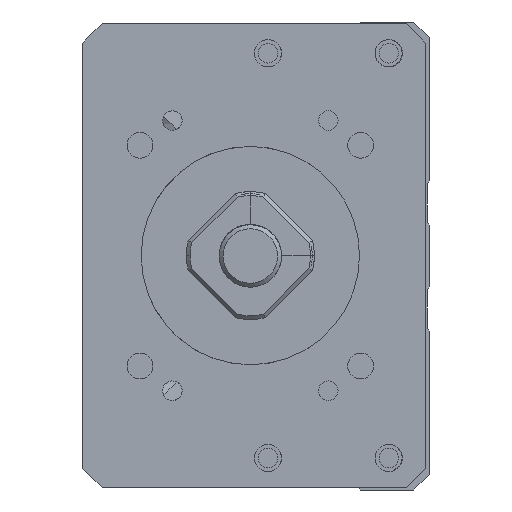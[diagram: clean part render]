
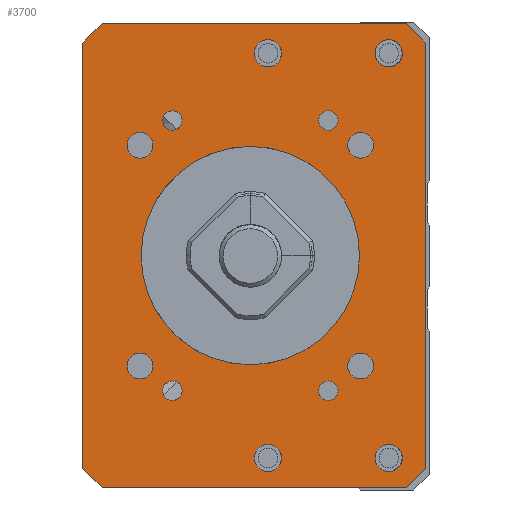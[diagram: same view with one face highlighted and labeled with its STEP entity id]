
A CAD part, left-side view. The second image highlights one B-rep face of the part: STEP entity #3700.
In plain terms, the highlighted planar face has unit normal (-1, 0, 0).
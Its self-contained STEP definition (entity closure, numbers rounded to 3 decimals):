
#461=CIRCLE('',#11580,14.);
#470=CIRCLE('',#11591,1.65);
#471=CIRCLE('',#11592,1.65);
#472=CIRCLE('',#11593,1.65);
#473=CIRCLE('',#11594,1.65);
#474=CIRCLE('',#11595,1.25);
#475=CIRCLE('',#11596,1.75);
#476=CIRCLE('',#11597,1.25);
#477=CIRCLE('',#11598,1.75);
#478=CIRCLE('',#11599,1.25);
#479=CIRCLE('',#11600,1.75);
#480=CIRCLE('',#11601,1.75);
#481=CIRCLE('',#11602,1.25);
#1025=PLANE('',#11603);
#2241=LINE('',#17450,#3095);
#2243=LINE('',#17474,#3097);
#2244=LINE('',#17476,#3098);
#2245=LINE('',#17478,#3099);
#2246=LINE('',#17480,#3100);
#2247=LINE('',#17482,#3101);
#2248=LINE('',#17484,#3102);
#2249=LINE('',#17486,#3103);
#3095=VECTOR('',#14167,1.);
#3097=VECTOR('',#14191,1.);
#3098=VECTOR('',#14192,1.);
#3099=VECTOR('',#14193,1.);
#3100=VECTOR('',#14194,1.);
#3101=VECTOR('',#14195,1.);
#3102=VECTOR('',#14196,1.);
#3103=VECTOR('',#14197,1.);
#3700=ADVANCED_FACE('',(#4372,#4373,#4374,#4375,#4376,#4377,#4378,#4379,
#4380,#4381,#4382,#4383,#4384,#4385),#1025,.F.);
#4372=FACE_BOUND('',#5173,.T.);
#4373=FACE_BOUND('',#5174,.T.);
#4374=FACE_BOUND('',#5175,.T.);
#4375=FACE_BOUND('',#5176,.T.);
#4376=FACE_BOUND('',#5177,.T.);
#4377=FACE_BOUND('',#5178,.T.);
#4378=FACE_BOUND('',#5179,.T.);
#4379=FACE_BOUND('',#5180,.T.);
#4380=FACE_BOUND('',#5181,.T.);
#4381=FACE_BOUND('',#5182,.T.);
#4382=FACE_BOUND('',#5183,.T.);
#4383=FACE_BOUND('',#5184,.T.);
#4384=FACE_BOUND('',#5185,.T.);
#4385=FACE_BOUND('',#5186,.T.);
#5173=EDGE_LOOP('',(#7548));
#5174=EDGE_LOOP('',(#7549));
#5175=EDGE_LOOP('',(#7550));
#5176=EDGE_LOOP('',(#7551));
#5177=EDGE_LOOP('',(#7552));
#5178=EDGE_LOOP('',(#7553));
#5179=EDGE_LOOP('',(#7554));
#5180=EDGE_LOOP('',(#7555));
#5181=EDGE_LOOP('',(#7556));
#5182=EDGE_LOOP('',(#7557,#7558,#7559,#7560,#7561,#7562,#7563,#7564));
#5183=EDGE_LOOP('',(#7565));
#5184=EDGE_LOOP('',(#7566));
#5185=EDGE_LOOP('',(#7567));
#5186=EDGE_LOOP('',(#7568));
#7548=ORIENTED_EDGE('',*,*,#10361,.F.);
#7549=ORIENTED_EDGE('',*,*,#10362,.F.);
#7550=ORIENTED_EDGE('',*,*,#10363,.F.);
#7551=ORIENTED_EDGE('',*,*,#10364,.F.);
#7552=ORIENTED_EDGE('',*,*,#10365,.F.);
#7553=ORIENTED_EDGE('',*,*,#10366,.T.);
#7554=ORIENTED_EDGE('',*,*,#10367,.F.);
#7555=ORIENTED_EDGE('',*,*,#10368,.F.);
#7556=ORIENTED_EDGE('',*,*,#10369,.F.);
#7557=ORIENTED_EDGE('',*,*,#10358,.T.);
#7558=ORIENTED_EDGE('',*,*,#10370,.T.);
#7559=ORIENTED_EDGE('',*,*,#10371,.F.);
#7560=ORIENTED_EDGE('',*,*,#10372,.T.);
#7561=ORIENTED_EDGE('',*,*,#10373,.F.);
#7562=ORIENTED_EDGE('',*,*,#10374,.T.);
#7563=ORIENTED_EDGE('',*,*,#10375,.T.);
#7564=ORIENTED_EDGE('',*,*,#10376,.T.);
#7565=ORIENTED_EDGE('',*,*,#10377,.F.);
#7566=ORIENTED_EDGE('',*,*,#10378,.F.);
#7567=ORIENTED_EDGE('',*,*,#10379,.F.);
#7568=ORIENTED_EDGE('',*,*,#10338,.F.);
#9020=VERTEX_POINT('',#17373);
#9040=VERTEX_POINT('',#17449);
#9041=VERTEX_POINT('',#17451);
#9043=VERTEX_POINT('',#17457);
#9044=VERTEX_POINT('',#17459);
#9045=VERTEX_POINT('',#17461);
#9046=VERTEX_POINT('',#17463);
#9047=VERTEX_POINT('',#17465);
#9048=VERTEX_POINT('',#17467);
#9049=VERTEX_POINT('',#17469);
#9050=VERTEX_POINT('',#17471);
#9051=VERTEX_POINT('',#17473);
#9052=VERTEX_POINT('',#17475);
#9053=VERTEX_POINT('',#17477);
#9054=VERTEX_POINT('',#17479);
#9055=VERTEX_POINT('',#17481);
#9056=VERTEX_POINT('',#17483);
#9057=VERTEX_POINT('',#17485);
#9058=VERTEX_POINT('',#17488);
#9059=VERTEX_POINT('',#17490);
#9060=VERTEX_POINT('',#17492);
#10338=EDGE_CURVE('',#9020,#9020,#461,.T.);
#10358=EDGE_CURVE('',#9041,#9040,#2241,.T.);
#10361=EDGE_CURVE('',#9043,#9043,#470,.T.);
#10362=EDGE_CURVE('',#9044,#9044,#471,.T.);
#10363=EDGE_CURVE('',#9045,#9045,#472,.T.);
#10364=EDGE_CURVE('',#9046,#9046,#473,.T.);
#10365=EDGE_CURVE('',#9047,#9047,#474,.T.);
#10366=EDGE_CURVE('',#9048,#9048,#475,.T.);
#10367=EDGE_CURVE('',#9049,#9049,#476,.T.);
#10368=EDGE_CURVE('',#9050,#9050,#477,.T.);
#10369=EDGE_CURVE('',#9051,#9051,#478,.T.);
#10370=EDGE_CURVE('',#9040,#9052,#2243,.T.);
#10371=EDGE_CURVE('',#9053,#9052,#2244,.T.);
#10372=EDGE_CURVE('',#9053,#9054,#2245,.T.);
#10373=EDGE_CURVE('',#9055,#9054,#2246,.T.);
#10374=EDGE_CURVE('',#9055,#9056,#2247,.T.);
#10375=EDGE_CURVE('',#9056,#9057,#2248,.T.);
#10376=EDGE_CURVE('',#9057,#9041,#2249,.T.);
#10377=EDGE_CURVE('',#9058,#9058,#479,.T.);
#10378=EDGE_CURVE('',#9059,#9059,#480,.T.);
#10379=EDGE_CURVE('',#9060,#9060,#481,.T.);
#11580=AXIS2_PLACEMENT_3D('',#17372,#14141,#14142);
#11591=AXIS2_PLACEMENT_3D('',#17456,#14173,#14174);
#11592=AXIS2_PLACEMENT_3D('',#17458,#14175,#14176);
#11593=AXIS2_PLACEMENT_3D('',#17460,#14177,#14178);
#11594=AXIS2_PLACEMENT_3D('',#17462,#14179,#14180);
#11595=AXIS2_PLACEMENT_3D('',#17464,#14181,#14182);
#11596=AXIS2_PLACEMENT_3D('',#17466,#14183,#14184);
#11597=AXIS2_PLACEMENT_3D('',#17468,#14185,#14186);
#11598=AXIS2_PLACEMENT_3D('',#17470,#14187,#14188);
#11599=AXIS2_PLACEMENT_3D('',#17472,#14189,#14190);
#11600=AXIS2_PLACEMENT_3D('',#17487,#14198,#14199);
#11601=AXIS2_PLACEMENT_3D('',#17489,#14200,#14201);
#11602=AXIS2_PLACEMENT_3D('',#17491,#14202,#14203);
#11603=AXIS2_PLACEMENT_3D('',#17493,#14204,#14205);
#14141=DIRECTION('',(-1.,0.,0.));
#14142=DIRECTION('',(0.,1.,0.));
#14167=DIRECTION('',(0.,0.,-1.));
#14173=DIRECTION('',(-1.,0.,0.));
#14174=DIRECTION('',(0.,0.,1.));
#14175=DIRECTION('',(-1.,0.,0.));
#14176=DIRECTION('',(0.,0.,1.));
#14177=DIRECTION('',(-1.,0.,0.));
#14178=DIRECTION('',(0.,0.,1.));
#14179=DIRECTION('',(-1.,0.,0.));
#14180=DIRECTION('',(0.,0.,1.));
#14181=DIRECTION('',(-1.,0.,0.));
#14182=DIRECTION('',(0.,1.,0.));
#14183=DIRECTION('',(1.,0.,0.));
#14184=DIRECTION('',(0.,0.,1.));
#14185=DIRECTION('',(-1.,0.,0.));
#14186=DIRECTION('',(0.,1.,0.));
#14187=DIRECTION('',(-1.,0.,0.));
#14188=DIRECTION('',(0.,0.,1.));
#14189=DIRECTION('',(-1.,0.,0.));
#14190=DIRECTION('',(0.,1.,0.));
#14191=DIRECTION('',(0.,-0.707,-0.707));
#14192=DIRECTION('',(0.,1.,0.));
#14193=DIRECTION('',(0.,-0.707,0.707));
#14194=DIRECTION('',(0.,0.,-1.));
#14195=DIRECTION('',(0.,0.707,0.707));
#14196=DIRECTION('',(0.,1.,0.));
#14197=DIRECTION('',(0.,0.707,-0.707));
#14198=DIRECTION('',(-1.,0.,0.));
#14199=DIRECTION('',(0.,0.,1.));
#14200=DIRECTION('',(-1.,0.,0.));
#14201=DIRECTION('',(0.,0.,1.));
#14202=DIRECTION('',(-1.,0.,0.));
#14203=DIRECTION('',(0.,1.,0.));
#14204=DIRECTION('',(1.,0.,0.));
#14205=DIRECTION('',(0.,1.,0.));
#17372=CARTESIAN_POINT('',(-211.,0.,-200.));
#17373=CARTESIAN_POINT('',(-211.,14.,-200.));
#17449=CARTESIAN_POINT('',(-211.,21.499,-227.25));
#17450=CARTESIAN_POINT('',(-211.,21.499,-170.25));
#17451=CARTESIAN_POINT('',(-211.,21.499,-172.75));
#17456=CARTESIAN_POINT('',(-211.,14.142,-185.858));
#17457=CARTESIAN_POINT('',(-211.,14.142,-184.208));
#17458=CARTESIAN_POINT('',(-211.,-14.142,-185.858));
#17459=CARTESIAN_POINT('',(-211.,-14.142,-184.208));
#17460=CARTESIAN_POINT('',(-211.,14.142,-214.142));
#17461=CARTESIAN_POINT('',(-211.,14.142,-212.492));
#17462=CARTESIAN_POINT('',(-211.,-14.142,-214.142));
#17463=CARTESIAN_POINT('',(-211.,-14.142,-212.492));
#17464=CARTESIAN_POINT('',(-211.,-10.,-217.321));
#17465=CARTESIAN_POINT('',(-211.,-8.75,-217.321));
#17466=CARTESIAN_POINT('',(-211.,-2.25,-225.936));
#17467=CARTESIAN_POINT('',(-211.,-2.25,-224.186));
#17468=CARTESIAN_POINT('',(-211.,10.,-182.679));
#17469=CARTESIAN_POINT('',(-211.,11.25,-182.679));
#17470=CARTESIAN_POINT('',(-211.,-2.25,-174.064));
#17471=CARTESIAN_POINT('',(-211.,-2.25,-172.314));
#17472=CARTESIAN_POINT('',(-211.,10.,-217.321));
#17473=CARTESIAN_POINT('',(-211.,11.25,-217.321));
#17474=CARTESIAN_POINT('',(-211.,18.999,-229.75));
#17475=CARTESIAN_POINT('',(-211.,18.999,-229.75));
#17476=CARTESIAN_POINT('',(-211.,-22.501,-229.75));
#17477=CARTESIAN_POINT('',(-211.,-20.001,-229.75));
#17478=CARTESIAN_POINT('',(-211.,-22.501,-227.25));
#17479=CARTESIAN_POINT('',(-211.,-22.501,-227.25));
#17480=CARTESIAN_POINT('',(-211.,-22.501,-170.25));
#17481=CARTESIAN_POINT('',(-211.,-22.501,-172.75));
#17482=CARTESIAN_POINT('',(-211.,-22.501,-172.75));
#17483=CARTESIAN_POINT('',(-211.,-20.001,-170.25));
#17484=CARTESIAN_POINT('',(-211.,-22.501,-170.25));
#17485=CARTESIAN_POINT('',(-211.,18.999,-170.25));
#17486=CARTESIAN_POINT('',(-211.,18.999,-170.25));
#17487=CARTESIAN_POINT('',(-211.,-17.75,-174.064));
#17488=CARTESIAN_POINT('',(-211.,-17.75,-172.314));
#17489=CARTESIAN_POINT('',(-211.,-17.75,-225.936));
#17490=CARTESIAN_POINT('',(-211.,-17.75,-224.186));
#17491=CARTESIAN_POINT('',(-211.,-10.,-182.679));
#17492=CARTESIAN_POINT('',(-211.,-8.75,-182.679));
#17493=CARTESIAN_POINT('',(-211.,-22.501,-170.25));
